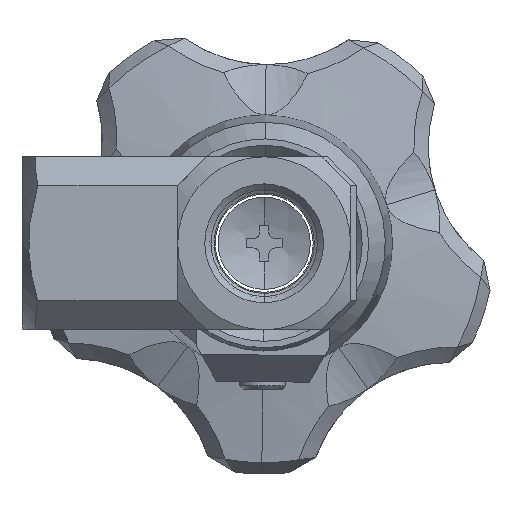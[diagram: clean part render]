
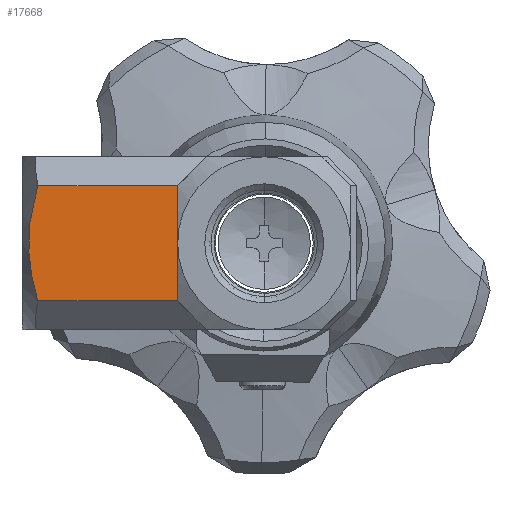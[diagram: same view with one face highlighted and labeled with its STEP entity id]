
A CAD part, front view. The second image highlights one B-rep face of the part: STEP entity #17668.
In plain terms, the highlighted planar face has unit normal (0, -1, 0).
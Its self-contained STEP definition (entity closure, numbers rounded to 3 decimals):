
#673 = CARTESIAN_POINT ( 'NONE',  ( -19.873, -8.5, 4.192 ) ) ;
#1002 = CARTESIAN_POINT ( 'NONE',  ( -7.5, -8.5, -5. ) ) ;
#2997 = EDGE_CURVE ( 'NONE', #8452, #5955, #5351, .T. ) ;
#4906 = VERTEX_POINT ( 'NONE', #31691 ) ;
#5351 = B_SPLINE_CURVE_WITH_KNOTS ( 'NONE', 3,
 ( #18242, #673, #15684, #20800, #5710, #23337, #8236, #25841, #10786, #28351 ),
 .UNSPECIFIED., .F., .F.,
 ( 4, 2, 2, 2, 4 ),
 ( 0.022, 0.025, 0.027, 0.03, 0.032 ),
 .UNSPECIFIED. ) ;
#5710 = CARTESIAN_POINT ( 'NONE',  ( -20.423, -8.5, 0.847 ) ) ;
#5797 = AXIS2_PLACEMENT_3D ( 'NONE', #7057, #24640, #9546 ) ;
#5805 = VECTOR ( 'NONE', #18054, 1000. ) ;
#5955 = VERTEX_POINT ( 'NONE', #24258 ) ;
#7040 = CARTESIAN_POINT ( 'NONE',  ( -7.5, -8.5, -5. ) ) ;
#7057 = CARTESIAN_POINT ( 'NONE',  ( -21., -8.5, 7.5 ) ) ;
#8093 = LINE ( 'NONE', #28106, #27406 ) ;
#8236 = CARTESIAN_POINT ( 'NONE',  ( -20.349, -8.5, -1.684 ) ) ;
#8452 = VERTEX_POINT ( 'NONE', #12963 ) ;
#8535 = DIRECTION ( 'NONE',  ( 1., 0., 0. ) ) ;
#9546 = DIRECTION ( 'NONE',  ( 0., 0., -1. ) ) ;
#10786 = CARTESIAN_POINT ( 'NONE',  ( -19.874, -8.5, -4.187 ) ) ;
#12498 = LINE ( 'NONE', #12997, #5805 ) ;
#12963 = CARTESIAN_POINT ( 'NONE',  ( -19.637, -8.5, 5. ) ) ;
#12997 = CARTESIAN_POINT ( 'NONE',  ( -21., -8.5, 5. ) ) ;
#13669 = LINE ( 'NONE', #1002, #25471 ) ;
#14005 = EDGE_CURVE ( 'NONE', #5955, #29819, #13669, .T. ) ;
#15684 = CARTESIAN_POINT ( 'NONE',  ( -20.07, -8.5, 3.374 ) ) ;
#15801 = EDGE_CURVE ( 'NONE', #4906, #8452, #12498, .T. ) ;
#17668 = ADVANCED_FACE ( 'NONE', ( #22206 ), #29543, .T. ) ;
#18054 = DIRECTION ( 'NONE',  ( -1., 0., 0. ) ) ;
#18242 = CARTESIAN_POINT ( 'NONE',  ( -19.637, -8.5, 5. ) ) ;
#19438 = EDGE_LOOP ( 'NONE', ( #22127, #31744, #26868, #23391 ) ) ;
#20592 = EDGE_CURVE ( 'NONE', #4906, #29819, #8093, .T. ) ;
#20800 = CARTESIAN_POINT ( 'NONE',  ( -20.346, -8.5, 1.705 ) ) ;
#22127 = ORIENTED_EDGE ( 'NONE', *, *, #15801, .T. ) ;
#22206 = FACE_OUTER_BOUND ( 'NONE', #19438, .T. ) ;
#23337 = CARTESIAN_POINT ( 'NONE',  ( -20.423, -8.5, -0.844 ) ) ;
#23391 = ORIENTED_EDGE ( 'NONE', *, *, #20592, .F. ) ;
#24258 = CARTESIAN_POINT ( 'NONE',  ( -19.637, -8.5, -5. ) ) ;
#24640 = DIRECTION ( 'NONE',  ( 0., -1., 0. ) ) ;
#25471 = VECTOR ( 'NONE', #8535, 1000. ) ;
#25841 = CARTESIAN_POINT ( 'NONE',  ( -20.075, -8.5, -3.354 ) ) ;
#26868 = ORIENTED_EDGE ( 'NONE', *, *, #14005, .T. ) ;
#27406 = VECTOR ( 'NONE', #30616, 1000. ) ;
#28106 = CARTESIAN_POINT ( 'NONE',  ( -7.5, -8.5, -7.5 ) ) ;
#28351 = CARTESIAN_POINT ( 'NONE',  ( -19.637, -8.5, -5. ) ) ;
#29543 = PLANE ( 'NONE',  #5797 ) ;
#29819 = VERTEX_POINT ( 'NONE', #7040 ) ;
#30616 = DIRECTION ( 'NONE',  ( 0., 0., -1. ) ) ;
#31691 = CARTESIAN_POINT ( 'NONE',  ( -7.5, -8.5, 5. ) ) ;
#31744 = ORIENTED_EDGE ( 'NONE', *, *, #2997, .T. ) ;
